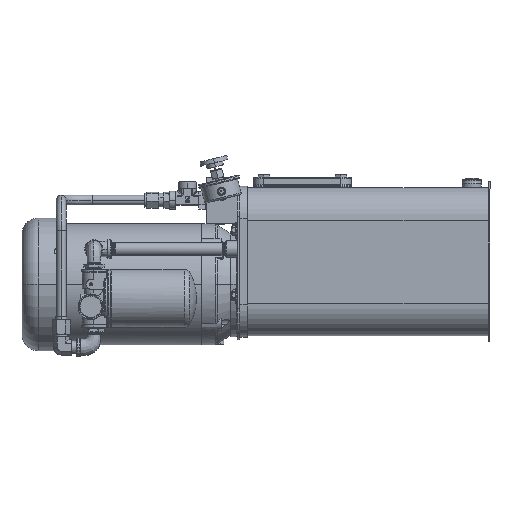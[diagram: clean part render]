
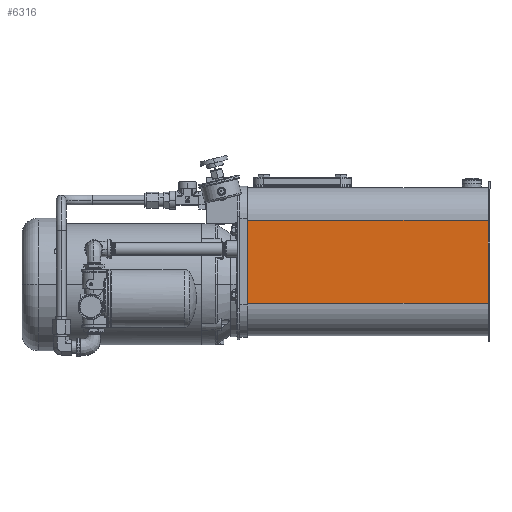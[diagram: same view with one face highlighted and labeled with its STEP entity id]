
A CAD part, top view. The second image highlights one B-rep face of the part: STEP entity #6316.
In plain terms, the highlighted planar face has unit normal (0, 0, 1).
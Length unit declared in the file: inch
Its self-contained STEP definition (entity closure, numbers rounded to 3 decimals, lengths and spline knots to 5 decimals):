
#1145 = ORIENTED_EDGE ( 'NONE', *, *, #10599, .T. ) ;
#2882 = VERTEX_POINT ( 'NONE', #144600 ) ;
#5238 = DIRECTION ( 'NONE',  ( 0., -1., 0. ) ) ;
#6316 = ADVANCED_FACE ( 'NONE', ( #71046 ), #59403, .F. ) ;
#10599 = EDGE_CURVE ( 'NONE', #109273, #149696, #37835, .T. ) ;
#17638 = DIRECTION ( 'NONE',  ( 0., -1., 0. ) ) ;
#27127 = ORIENTED_EDGE ( 'NONE', *, *, #125204, .F. ) ;
#32416 = LINE ( 'NONE', #69456, #36633 ) ;
#35040 = AXIS2_PLACEMENT_3D ( 'NONE', #49345, #75653, #5238 ) ;
#36633 = VECTOR ( 'NONE', #117350, 39.37008 ) ;
#37835 = LINE ( 'NONE', #132842, #81484 ) ;
#38379 = CARTESIAN_POINT ( 'NONE',  ( 15.33559, 1.98156, 20.72481 ) ) ;
#41301 = VECTOR ( 'NONE', #75243, 39.37008 ) ;
#49345 = CARTESIAN_POINT ( 'NONE',  ( -0.66441, 9.48696, 20.72481 ) ) ;
#53956 = LINE ( 'NONE', #102570, #87399 ) ;
#54287 = CARTESIAN_POINT ( 'NONE',  ( -0.66441, 7.36736, 20.72481 ) ) ;
#59403 = PLANE ( 'NONE',  #35040 ) ;
#65779 = EDGE_CURVE ( 'NONE', #109273, #116536, #32416, .T. ) ;
#66611 = LINE ( 'NONE', #54287, #41301 ) ;
#68111 = ORIENTED_EDGE ( 'NONE', *, *, #65779, .F. ) ;
#69456 = CARTESIAN_POINT ( 'NONE',  ( -0.66441, 9.48696, 20.72481 ) ) ;
#71046 = FACE_OUTER_BOUND ( 'NONE', #106589, .T. ) ;
#75243 = DIRECTION ( 'NONE',  ( 1., 0., 0. ) ) ;
#75653 = DIRECTION ( 'NONE',  ( 0., 0., -1. ) ) ;
#81484 = VECTOR ( 'NONE', #94951, 39.37008 ) ;
#87399 = VECTOR ( 'NONE', #17638, 39.37008 ) ;
#90215 = CARTESIAN_POINT ( 'NONE',  ( -0.66441, 7.36736, 20.72481 ) ) ;
#92152 = ORIENTED_EDGE ( 'NONE', *, *, #118622, .F. ) ;
#94951 = DIRECTION ( 'NONE',  ( 1., 0., 0. ) ) ;
#102570 = CARTESIAN_POINT ( 'NONE',  ( 15.33559, 4.67446, 20.72481 ) ) ;
#106589 = EDGE_LOOP ( 'NONE', ( #27127, #92152, #68111, #1145 ) ) ;
#109273 = VERTEX_POINT ( 'NONE', #126568 ) ;
#116536 = VERTEX_POINT ( 'NONE', #90215 ) ;
#117350 = DIRECTION ( 'NONE',  ( 0., 1., 0. ) ) ;
#118622 = EDGE_CURVE ( 'NONE', #116536, #2882, #66611, .T. ) ;
#125204 = EDGE_CURVE ( 'NONE', #2882, #149696, #53956, .T. ) ;
#126568 = CARTESIAN_POINT ( 'NONE',  ( -0.66441, 1.98156, 20.72481 ) ) ;
#132842 = CARTESIAN_POINT ( 'NONE',  ( -0.66441, 1.98156, 20.72481 ) ) ;
#144600 = CARTESIAN_POINT ( 'NONE',  ( 15.33559, 7.36736, 20.72481 ) ) ;
#149696 = VERTEX_POINT ( 'NONE', #38379 ) ;
